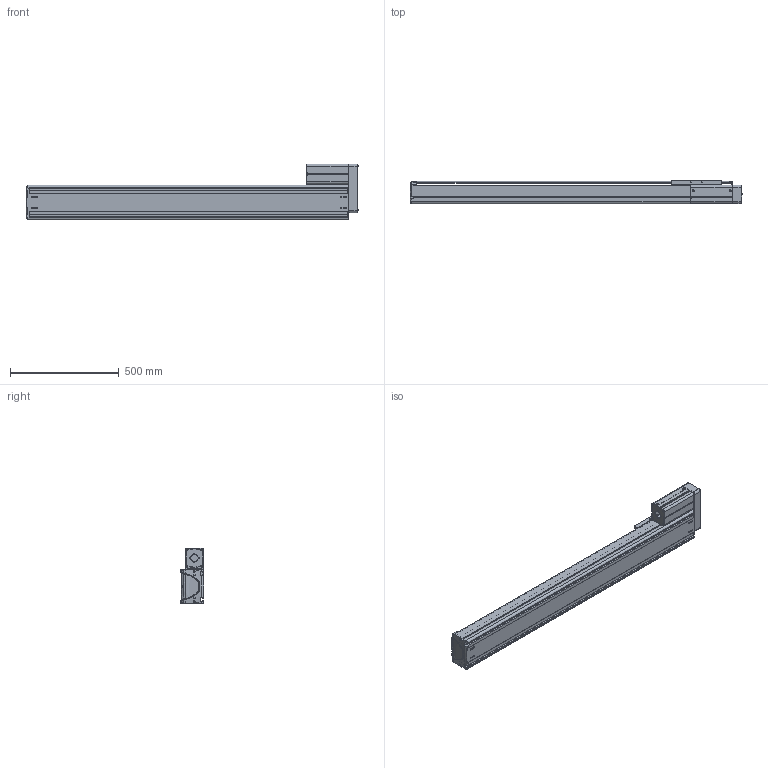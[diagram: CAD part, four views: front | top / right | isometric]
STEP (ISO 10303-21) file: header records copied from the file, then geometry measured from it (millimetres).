
FILE_DESCRIPTION((''),'2;1');
FILE_NAME('BE50F-UR-L_B-B5_IGS_PRT','2017-06-18T',(' '),(''),'PRO/ENGINEER BY PARAMETRIC TECHNOLOGY CORPORATION, 2015030','PRO/ENGINEER BY PARAMETRIC TECHNOLOGY CORPORATION, 2015030','');
FILE_SCHEMA(('CONFIG_CONTROL_DESIGN'));
Length unit declared in the file: millimetre
Products named in the file (1): BE50F-UR-L_B-B5_IGS_PRT
Bounding box: 1525.88 x 110 x 257 mm (x, y, z)
Volume: 6277559.3 mm3; surface area: 2574405.3 mm2
Topology: 6 solids, 154 shells, 2320 faces, 6368 edges, 4168 vertices
Faces by surface type: cylinder 1020, plane 1016, cone 145, torus 59, bspline 48, sphere 32
Entity records: 77385 total; most frequent: CARTESIAN_POINT 17911, DIRECTION 12389, ORIENTED_EDGE 12104, EDGE_CURVE 6320, AXIS2_PLACEMENT_3D 4437, VERTEX_POINT 4163, VECTOR 3515, LINE 3515
